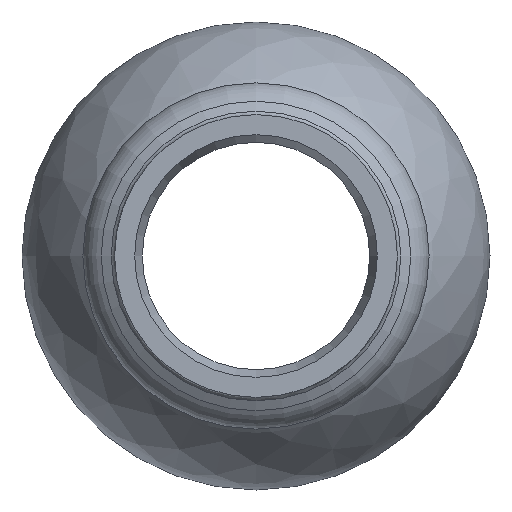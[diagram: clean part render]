
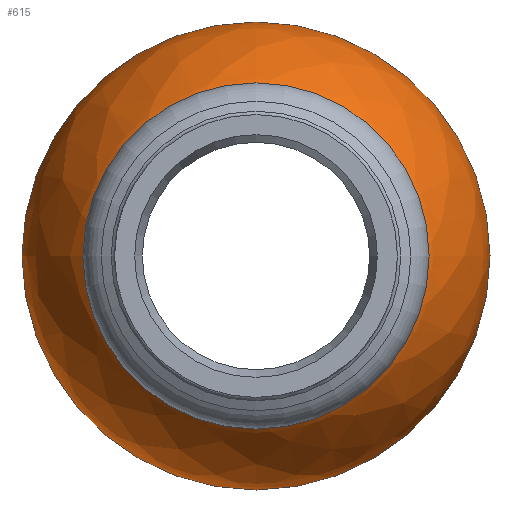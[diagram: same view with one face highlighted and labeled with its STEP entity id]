
A CAD part, left-side view. The second image highlights one B-rep face of the part: STEP entity #615.
In plain terms, the highlighted free-form (B-spline) face has degree [2, 2] with [3, 9] control points.
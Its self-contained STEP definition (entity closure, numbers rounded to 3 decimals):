
#534=CARTESIAN_POINT('',(-47.683,10.221,0.));
#535=VERTEX_POINT('',#534);
#536=CARTESIAN_POINT('',(-47.683,0.,0.0));
#537=DIRECTION('',(-1.0,0.0,0.0));
#538=DIRECTION('',(0.0,-1.0,0.0));
#539=AXIS2_PLACEMENT_3D('',#536,#537,#538);
#540=CIRCLE('',#539,10.221);
#541=EDGE_CURVE('',#535,#535,#540,.T.);
#566=CARTESIAN_POINT('',(-47.683,0.,10.221));
#567=CARTESIAN_POINT('',(-42.778,0.,17.5));
#568=CARTESIAN_POINT('',(-34.0,0.,17.5));
#569=CARTESIAN_POINT('',(-47.683,10.221,10.221));
#570=CARTESIAN_POINT('',(-42.778,17.5,17.5));
#571=CARTESIAN_POINT('',(-34.0,17.5,17.5));
#572=CARTESIAN_POINT('',(-47.683,10.221,0.));
#573=CARTESIAN_POINT('',(-42.778,17.5,0.));
#574=CARTESIAN_POINT('',(-34.0,17.5,0.));
#575=CARTESIAN_POINT('',(-47.683,10.221,-10.221));
#576=CARTESIAN_POINT('',(-42.778,17.5,-17.5));
#577=CARTESIAN_POINT('',(-34.0,17.5,-17.5));
#578=CARTESIAN_POINT('',(-47.683,0.,-10.221));
#579=CARTESIAN_POINT('',(-42.778,0.,-17.5));
#580=CARTESIAN_POINT('',(-34.0,0.,-17.5));
#581=CARTESIAN_POINT('',(-47.683,-10.221,-10.221));
#582=CARTESIAN_POINT('',(-42.778,-17.5,-17.5));
#583=CARTESIAN_POINT('',(-34.0,-17.5,-17.5));
#584=CARTESIAN_POINT('',(-47.683,-10.221,0.));
#585=CARTESIAN_POINT('',(-42.778,-17.5,0.));
#586=CARTESIAN_POINT('',(-34.0,-17.5,0.));
#587=CARTESIAN_POINT('',(-47.683,-10.221,10.221));
#588=CARTESIAN_POINT('',(-42.778,-17.5,17.5));
#589=CARTESIAN_POINT('',(-34.0,-17.5,17.5));
#590=CARTESIAN_POINT('',(-47.683,0.,10.221));
#591=CARTESIAN_POINT('',(-42.778,0.,17.5));
#592=CARTESIAN_POINT('',(-34.0,0.,17.5));
#600=(BOUNDED_SURFACE()B_SPLINE_SURFACE(2,2,((#566,#569,#572,#575,#578,#581,#584,#587,#590),(#567,#570,#573,#576,#579,#582,#585,#588,#591),(#568,#571,#574,#577,#580,#583,#586,#589,#592)),.UNSPECIFIED.,.F.,.T.,.U.)B_SPLINE_SURFACE_WITH_KNOTS((3,3),(3,2,2,2,3),(-0.978,0.),(0.0,1.571,3.142,4.712,6.283),.UNSPECIFIED.)GEOMETRIC_REPRESENTATION_ITEM()RATIONAL_B_SPLINE_SURFACE(((1.0,0.707,1.0,0.707,1.0,0.707,1.0,0.707,1.0),(0.883,0.624,0.883,0.624,0.883,0.624,0.883,0.624,0.883),(1.0,0.707,1.0,0.707,1.0,0.707,1.0,0.707,1.0)))REPRESENTATION_ITEM('')SURFACE());
#601=CARTESIAN_POINT('',(-34.0,17.5,0.0));
#602=VERTEX_POINT('',#601);
#603=CARTESIAN_POINT('',(-34.0,0.,0.0));
#604=DIRECTION('',(1.0,0.0,0.0));
#605=DIRECTION('',(0.0,1.0,0.0));
#606=AXIS2_PLACEMENT_3D('',#603,#604,#605);
#607=CIRCLE('',#606,17.5);
#608=EDGE_CURVE('',#602,#602,#607,.T.);
#609=ORIENTED_EDGE('',*,*,#608,.F.);
#610=EDGE_LOOP('',(#609));
#611=FACE_OUTER_BOUND('',#610,.T.);
#612=ORIENTED_EDGE('',*,*,#541,.F.);
#613=EDGE_LOOP('',(#612));
#614=FACE_BOUND('',#613,.T.);
#615=ADVANCED_FACE('',(#611,#614),#600,.T.);
